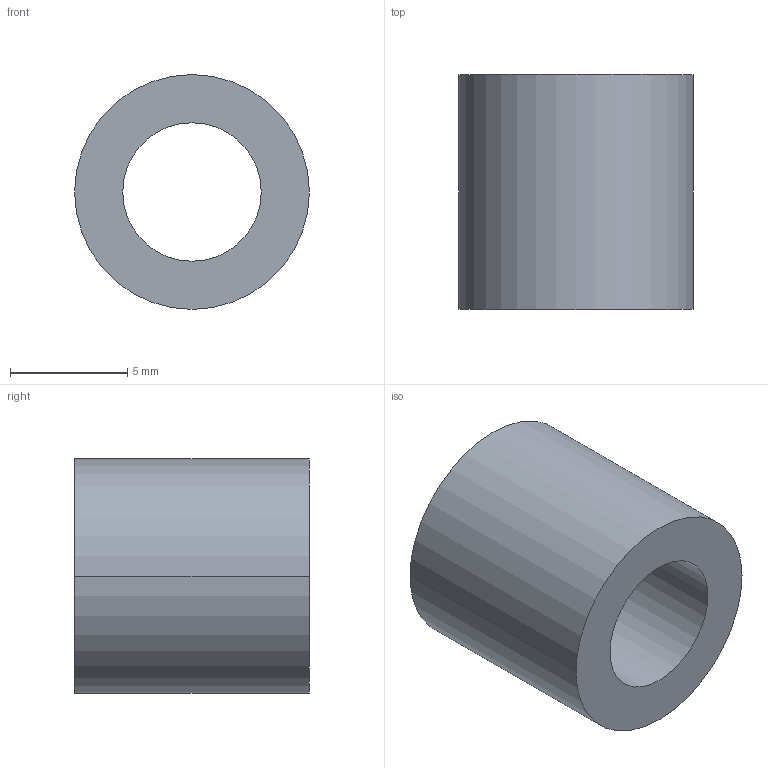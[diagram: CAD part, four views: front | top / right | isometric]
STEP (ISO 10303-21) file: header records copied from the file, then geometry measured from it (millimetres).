
FILE_DESCRIPTION (( 'STEP AP203' ), '1' );
FILE_NAME ('30800.WPP10D5.9.step', '2019-01-23T22:24:01', ( '' ), ( '' ), 'SwSTEP 2.0', 'SolidWorks 2017', '' );
FILE_SCHEMA (( 'CONFIG_CONTROL_DESIGN' ));
Length unit declared in the file: millimetre
Products named in the file (1): 30800.WPP10D5.9
Bounding box: 10 x 10 x 10 mm (x, y, z)
Volume: 502 mm3; surface area: 591 mm2
Topology: 1 solids, 1 shells, 8 faces, 16 edges, 10 vertices
Faces by surface type: cylinder 4, torus 2, plane 2
Entity records: 297 total; most frequent: DIRECTION 46, CARTESIAN_POINT 35, ORIENTED_EDGE 32, AXIS2_PLACEMENT_3D 21, EDGE_CURVE 16, CIRCLE 12, VERTEX_POINT 10, EDGE_LOOP 10
